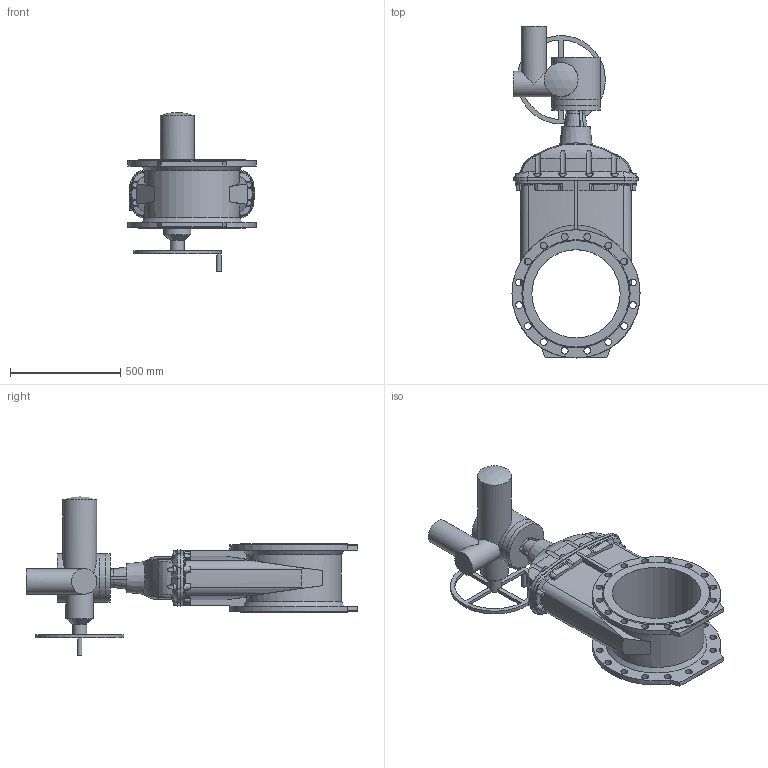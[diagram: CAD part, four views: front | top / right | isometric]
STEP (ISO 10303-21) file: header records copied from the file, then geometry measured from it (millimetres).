
FILE_DESCRIPTION (( 'STEP AP203' ), '1' );
FILE_NAME ('O_15_40_DN400_X1X_SA14.6_AA0.step', '2017-03-20T12:16:23', ( 'Windows User' ), ( 'AVK' ), 'SwSTEP 2.0', 'SolidWorks 2012', '' );
FILE_SCHEMA (( 'CONFIG_CONTROL_DESIGN' ));
Length unit declared in the file: inch
Products named in the file (1): O_15_40_DN400_X1X_SA14.6_AA0
Bounding box: 580 x 1502.5 x 721 mm (x, y, z)
Volume: 80115536.8 mm3; surface area: 2838474.5 mm2
Topology: 1 solids, 1 shells, 346 faces, 1004 edges, 668 vertices
Faces by surface type: plane 116, cone 89, cylinder 78, bspline 33, torus 29, sphere 1
Full cylindrical faces by diameter (mm): 20 x1, 31 x32, 62.64 x1, 115 x2, 124.727 x1, 153 x1, 220 x3, 400 x2, 580 x2
Entity records: 17087 total; most frequent: CARTESIAN_POINT 8676, ORIENTED_EDGE 1824, DIRECTION 1536, EDGE_CURVE 912, AXIS2_PLACEMENT_3D 646, VERTEX_POINT 626, EDGE_LOOP 478, FACE_OUTER_BOUND 391
